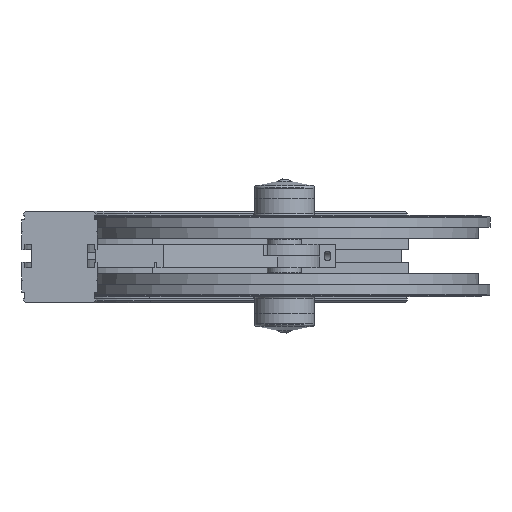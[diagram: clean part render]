
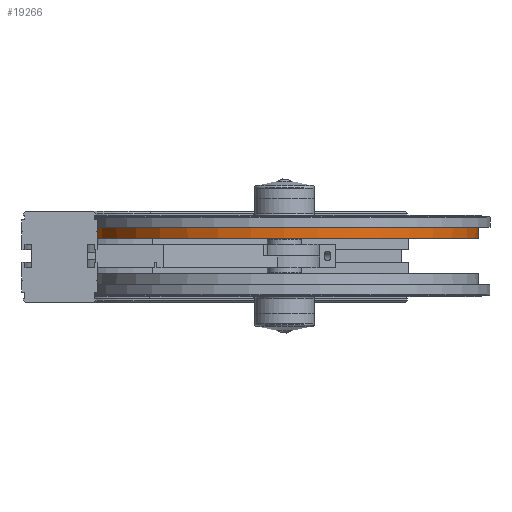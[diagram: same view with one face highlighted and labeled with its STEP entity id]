
A CAD part, left-side view. The second image highlights one B-rep face of the part: STEP entity #19266.
In plain terms, the highlighted conical face has half-angle 2 degrees and reference radius 165.506 mm.
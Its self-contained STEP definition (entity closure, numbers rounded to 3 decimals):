
#19239=CARTESIAN_POINT('',(-34.272,-37.099,0.));
#19240=DIRECTION('',(1.0,0.0,0.0));
#19241=DIRECTION('',(0.0,1.0,0.0));
#19242=AXIS2_PLACEMENT_3D('',#19239,#19240,#19241);
#19243=CONICAL_SURFACE('',#19242,165.506,2.);
#19244=CARTESIAN_POINT('',(-48.772,127.901,0.));
#19245=VERTEX_POINT('',#19244);
#19246=CARTESIAN_POINT('',(-48.772,-37.099,0.));
#19247=DIRECTION('',(1.0,0.0,0.0));
#19248=DIRECTION('',(0.0,1.0,0.0));
#19249=AXIS2_PLACEMENT_3D('',#19246,#19247,#19248);
#19250=CIRCLE('',#19249,165.);
#19251=EDGE_CURVE('',#19245,#19245,#19250,.T.);
#19252=ORIENTED_EDGE('',*,*,#19251,.T.);
#19253=EDGE_LOOP('',(#19252));
#19254=FACE_OUTER_BOUND('',#19253,.T.);
#19255=CARTESIAN_POINT('',(-34.272,128.408,0.));
#19256=VERTEX_POINT('',#19255);
#19257=CARTESIAN_POINT('',(-34.272,-37.099,0.));
#19258=DIRECTION('',(1.0,0.0,0.0));
#19259=DIRECTION('',(0.0,1.0,0.0));
#19260=AXIS2_PLACEMENT_3D('',#19257,#19258,#19259);
#19261=CIRCLE('',#19260,165.506);
#19262=EDGE_CURVE('',#19256,#19256,#19261,.T.);
#19263=ORIENTED_EDGE('',*,*,#19262,.F.);
#19264=EDGE_LOOP('',(#19263));
#19265=FACE_BOUND('',#19264,.T.);
#19266=ADVANCED_FACE('',(#19254,#19265),#19243,.T.);
